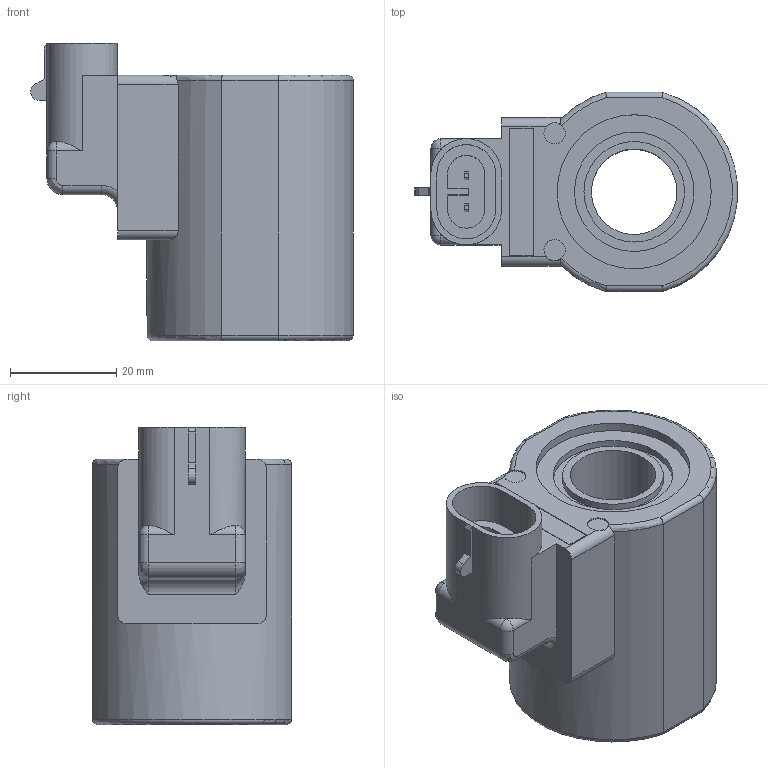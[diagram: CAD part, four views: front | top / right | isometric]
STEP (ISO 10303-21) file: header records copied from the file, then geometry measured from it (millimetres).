
FILE_DESCRIPTION((''),'2;1');
FILE_NAME('Q:\Delta CADD Insertion Codes\3D Solid models\Coils\STEP\LIA.stp','2012-06-04T10:04:59',('Dan'),(''),'Autodesk Inventor 2012','Autodesk Inventor 2012','');
FILE_SCHEMA(('AUTOMOTIVE_DESIGN { 1 0 10303 214 1 1 1 1 }'));
Length unit declared in the file: inch
Products named in the file (1): Part18
Bounding box: 60.78 x 37.5 x 56 mm (x, y, z)
Volume: 58375.5 mm3; surface area: 14294 mm2
Topology: 1 solids, 1 shells, 106 faces, 257 edges, 164 vertices
Faces by surface type: plane 59, cylinder 36, torus 7, bspline 2, sphere 2
Full cylindrical faces by diameter (mm): 4 x2, 16.104 x1, 18.948 x2, 22.504 x2, 29.03 x2
Entity records: 3347 total; most frequent: CARTESIAN_POINT 875, DIRECTION 501, ORIENTED_EDGE 492, EDGE_CURVE 246, AXIS2_PLACEMENT_3D 174, VERTEX_POINT 162, VECTOR 153, LINE 153
